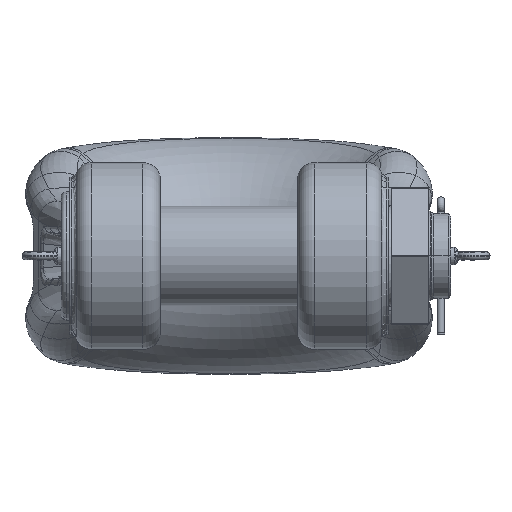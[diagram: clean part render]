
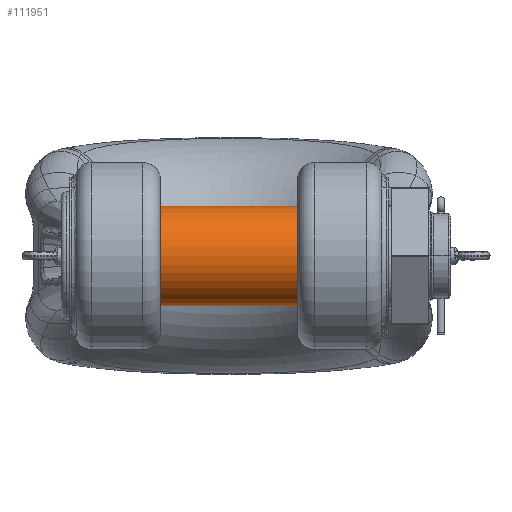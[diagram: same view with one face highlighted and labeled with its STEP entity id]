
A CAD part, front view. The second image highlights one B-rep face of the part: STEP entity #111951.
In plain terms, the highlighted cylindrical face has radius 100 mm (diameter 200 mm), a partial arc.
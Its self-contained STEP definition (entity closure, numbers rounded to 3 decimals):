
#104023=CARTESIAN_POINT('',(6.,0.,0.));
#104024=DIRECTION('',(1.,0.,0.));
#104025=DIRECTION('',(0.,0.,1.));
#104026=AXIS2_PLACEMENT_3D('',#104023,#104024,#104025);
#104031=CARTESIAN_POINT('',(617.5,0.,0.));
#104032=DIRECTION('',(-1.,0.,0.));
#104033=DIRECTION('',(0.,0.,-1.));
#104034=AXIS2_PLACEMENT_3D('',#104031,#104032,#104033);
#104039=DIRECTION('',(1.,0.,0.));
#104040=VECTOR('',#104039,611.5);
#104041=CARTESIAN_POINT('',(6.,0.,-100.));
#104042=LINE('',#104041,#104040);
#104062=DIRECTION('',(1.,0.,0.));
#104063=VECTOR('',#104062,611.5);
#104064=CARTESIAN_POINT('',(6.,0.,100.));
#104065=LINE('',#104064,#104063);
#104569=CARTESIAN_POINT('',(617.5,0.,-100.));
#104570=CARTESIAN_POINT('',(617.5,0.,100.));
#104571=VERTEX_POINT('',#104569);
#104572=VERTEX_POINT('',#104570);
#104607=CARTESIAN_POINT('',(6.,0.,100.));
#104608=CARTESIAN_POINT('',(6.,0.,-100.));
#104609=VERTEX_POINT('',#104607);
#104610=VERTEX_POINT('',#104608);
#111937=CARTESIAN_POINT('',(-39.,0.,0.));
#111938=DIRECTION('',(-1.,0.,0.));
#111939=DIRECTION('',(0.,0.,1.));
#111940=AXIS2_PLACEMENT_3D('',#111937,#111938,#111939);
#111941=CYLINDRICAL_SURFACE('',#111940,100.);
#111942=ORIENTED_EDGE('',*,*,#111924,.F.);
#111944=ORIENTED_EDGE('',*,*,#111943,.T.);
#111946=ORIENTED_EDGE('',*,*,#111945,.F.);
#111948=ORIENTED_EDGE('',*,*,#111947,.F.);
#111949=EDGE_LOOP('',(#111942,#111944,#111946,#111948));
#111950=FACE_OUTER_BOUND('',#111949,.F.);
#111951=ADVANCED_FACE('',(#111950),#111941,.T.);
#104027=CIRCLE('',#104026,100.);
#104035=CIRCLE('',#104034,100.);
#111924=EDGE_CURVE('',#104609,#104610,#104027,.T.);
#111943=EDGE_CURVE('',#104609,#104572,#104065,.T.);
#111945=EDGE_CURVE('',#104571,#104572,#104035,.T.);
#111947=EDGE_CURVE('',#104610,#104571,#104042,.T.);
